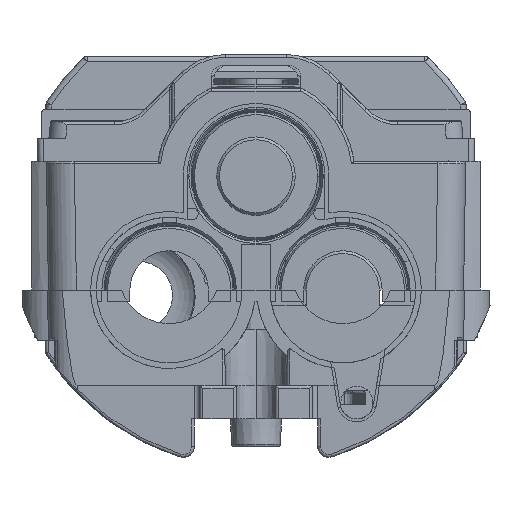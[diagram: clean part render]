
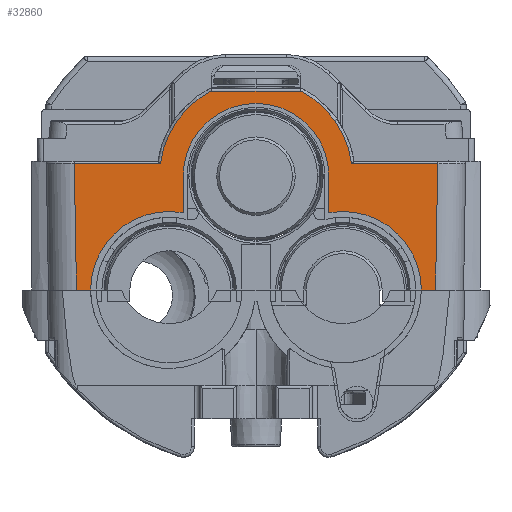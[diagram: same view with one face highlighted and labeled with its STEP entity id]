
A CAD part, left-side view. The second image highlights one B-rep face of the part: STEP entity #32860.
In plain terms, the highlighted planar face has unit normal (-1, 0, 0).
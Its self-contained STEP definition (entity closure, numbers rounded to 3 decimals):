
#118 = CARTESIAN_POINT ( 'NONE',  ( -325.383, 32.028, 34. ) ) ;
#2067 = EDGE_CURVE ( 'NONE', #2610, #49911, #42986, .T. ) ;
#2324 = VERTEX_POINT ( 'NONE', #6703 ) ;
#2610 = VERTEX_POINT ( 'NONE', #35472 ) ;
#2659 = CARTESIAN_POINT ( 'NONE',  ( -325.383, 32.762, 76.074 ) ) ;
#3136 = CARTESIAN_POINT ( 'NONE',  ( -325.383, 13., 47.775 ) ) ;
#3774 = EDGE_CURVE ( 'NONE', #31013, #2610, #27265, .T. ) ;
#4489 = LINE ( 'NONE', #52822, #27138 ) ;
#4792 = LINE ( 'NONE', #2659, #51269 ) ;
#6269 = CARTESIAN_POINT ( 'NONE',  ( -325.383, 37.029, 34. ) ) ;
#6314 = DIRECTION ( 'NONE',  ( -1., 0., 0. ) ) ;
#6455 = CARTESIAN_POINT ( 'NONE',  ( -325.383, 0., 54.3 ) ) ;
#6659 = ORIENTED_EDGE ( 'NONE', *, *, #49433, .T. ) ;
#6703 = CARTESIAN_POINT ( 'NONE',  ( -325.383, 13., 54.3 ) ) ;
#6851 = DIRECTION ( 'NONE',  ( 0., 0., 1. ) ) ;
#7115 = ORIENTED_EDGE ( 'NONE', *, *, #16212, .F. ) ;
#7698 = DIRECTION ( 'NONE',  ( 0., -1., 0. ) ) ;
#8183 = DIRECTION ( 'NONE',  ( 0., 0., -1. ) ) ;
#8888 = VERTEX_POINT ( 'NONE', #118 ) ;
#9203 = DIRECTION ( 'NONE',  ( -1., 0., 0. ) ) ;
#9289 = CARTESIAN_POINT ( 'NONE',  ( -325.383, 37.029, 56.5 ) ) ;
#9937 = LINE ( 'NONE', #9289, #22068 ) ;
#9982 = DIRECTION ( 'NONE',  ( 0., 0., -1. ) ) ;
#10129 = VERTEX_POINT ( 'NONE', #36605 ) ;
#10559 = DIRECTION ( 'NONE',  ( -1., 0., 0. ) ) ;
#10719 = EDGE_CURVE ( 'NONE', #50583, #8888, #4792, .T. ) ;
#10935 = DIRECTION ( 'NONE',  ( 0., -1., 0. ) ) ;
#12222 = EDGE_CURVE ( 'NONE', #2324, #28809, #39969, .T. ) ;
#12239 = VERTEX_POINT ( 'NONE', #41917 ) ;
#14271 = CARTESIAN_POINT ( 'NONE',  ( -325.383, -32.421, 56.5 ) ) ;
#14527 = VECTOR ( 'NONE', #41971, 1000. ) ;
#14599 = EDGE_CURVE ( 'NONE', #10129, #28165, #51025, .T. ) ;
#14882 = CARTESIAN_POINT ( 'NONE',  ( -325.383, 17.059, 56.5 ) ) ;
#16159 = AXIS2_PLACEMENT_3D ( 'NONE', #37655, #10559, #42100 ) ;
#16212 = EDGE_CURVE ( 'NONE', #28809, #20302, #26369, .T. ) ;
#16432 = DIRECTION ( 'NONE',  ( 0., -0.017, 1. ) ) ;
#17389 = EDGE_LOOP ( 'NONE', ( #34760, #45585, #31134, #6659, #7115, #27620, #50789, #31689, #34525, #55994, #37699, #37464, #18642, #53442 ) ) ;
#18447 = AXIS2_PLACEMENT_3D ( 'NONE', #6455, #38015, #10935 ) ;
#18642 = ORIENTED_EDGE ( 'NONE', *, *, #3774, .T. ) ;
#19779 = CIRCLE ( 'NONE', #55710, 14. ) ;
#19823 = VECTOR ( 'NONE', #16432, 1000. ) ;
#20302 = VERTEX_POINT ( 'NONE', #52577 ) ;
#20615 = AXIS2_PLACEMENT_3D ( 'NONE', #50453, #23589, #55075 ) ;
#22068 = VECTOR ( 'NONE', #54484, 1000. ) ;
#22109 = EDGE_CURVE ( 'NONE', #55123, #12239, #35535, .T. ) ;
#22979 = EDGE_CURVE ( 'NONE', #28165, #24633, #47950, .T. ) ;
#23589 = DIRECTION ( 'NONE',  ( -1., 0., 0. ) ) ;
#23978 = CARTESIAN_POINT ( 'NONE',  ( -325.383, 37.029, 56.5 ) ) ;
#24633 = VERTEX_POINT ( 'NONE', #14271 ) ;
#25111 = CARTESIAN_POINT ( 'NONE',  ( -325.383, -32.74, 74.782 ) ) ;
#26369 = CIRCLE ( 'NONE', #16159, 14. ) ;
#26965 = FACE_OUTER_BOUND ( 'NONE', #17389, .T. ) ;
#27138 = VECTOR ( 'NONE', #7698, 1000. ) ;
#27265 = CIRCLE ( 'NONE', #29676, 17.2 ) ;
#27278 = CARTESIAN_POINT ( 'NONE',  ( -325.383, -13., 47.775 ) ) ;
#27620 = ORIENTED_EDGE ( 'NONE', *, *, #12222, .F. ) ;
#28127 = VECTOR ( 'NONE', #9982, 1000. ) ;
#28142 = LINE ( 'NONE', #23978, #14527 ) ;
#28165 = VERTEX_POINT ( 'NONE', #47343 ) ;
#28809 = VERTEX_POINT ( 'NONE', #3136 ) ;
#29493 = CARTESIAN_POINT ( 'NONE',  ( -325.383, -13., 54.3 ) ) ;
#29676 = AXIS2_PLACEMENT_3D ( 'NONE', #36293, #9203, #40738 ) ;
#30821 = CARTESIAN_POINT ( 'NONE',  ( -325.383, 37.029, 76. ) ) ;
#31013 = VERTEX_POINT ( 'NONE', #53427 ) ;
#31134 = ORIENTED_EDGE ( 'NONE', *, *, #10719, .T. ) ;
#31228 = CARTESIAN_POINT ( 'NONE',  ( -325.383, 8.05, 69.5 ) ) ;
#31331 = VERTEX_POINT ( 'NONE', #14882 ) ;
#31689 = ORIENTED_EDGE ( 'NONE', *, *, #22109, .F. ) ;
#32860 = ADVANCED_FACE ( 'NONE', ( #26965 ), #57792, .F. ) ;
#33430 = CARTESIAN_POINT ( 'NONE',  ( -325.383, -15.5, 34. ) ) ;
#34214 = DIRECTION ( 'NONE',  ( 0., -0.017, -1. ) ) ;
#34525 = ORIENTED_EDGE ( 'NONE', *, *, #53544, .F. ) ;
#34760 = ORIENTED_EDGE ( 'NONE', *, *, #46132, .T. ) ;
#35274 = DIRECTION ( 'NONE',  ( 1., 0., 0. ) ) ;
#35472 = CARTESIAN_POINT ( 'NONE',  ( -325.383, -8.05, 69.5 ) ) ;
#35535 = LINE ( 'NONE', #29493, #56671 ) ;
#36293 = CARTESIAN_POINT ( 'NONE',  ( -325.383, 0., 54.3 ) ) ;
#36605 = CARTESIAN_POINT ( 'NONE',  ( -325.383, -29.5, 34. ) ) ;
#37464 = ORIENTED_EDGE ( 'NONE', *, *, #50364, .T. ) ;
#37655 = CARTESIAN_POINT ( 'NONE',  ( -325.383, 15.5, 34. ) ) ;
#37699 = ORIENTED_EDGE ( 'NONE', *, *, #22979, .T. ) ;
#37874 = DIRECTION ( 'NONE',  ( 0., -1., 0. ) ) ;
#38015 = DIRECTION ( 'NONE',  ( -1., 0., 0. ) ) ;
#39969 = LINE ( 'NONE', #50400, #28127 ) ;
#40738 = DIRECTION ( 'NONE',  ( 0., 0., -1. ) ) ;
#40788 = CIRCLE ( 'NONE', #20615, 17.2 ) ;
#41917 = CARTESIAN_POINT ( 'NONE',  ( -325.383, -13., 54.3 ) ) ;
#41971 = DIRECTION ( 'NONE',  ( 0., 1., 0. ) ) ;
#42100 = DIRECTION ( 'NONE',  ( 0., -1., 0. ) ) ;
#42986 = LINE ( 'NONE', #53671, #56514 ) ;
#43450 = EDGE_CURVE ( 'NONE', #31331, #50583, #28142, .T. ) ;
#45328 = VECTOR ( 'NONE', #46730, 1000. ) ;
#45585 = ORIENTED_EDGE ( 'NONE', *, *, #43450, .T. ) ;
#46132 = EDGE_CURVE ( 'NONE', #49911, #31331, #40788, .T. ) ;
#46730 = DIRECTION ( 'NONE',  ( 0., -1., 0. ) ) ;
#47343 = CARTESIAN_POINT ( 'NONE',  ( -325.383, -32.028, 34. ) ) ;
#47950 = LINE ( 'NONE', #25111, #19823 ) ;
#48595 = CIRCLE ( 'NONE', #18447, 13. ) ;
#49433 = EDGE_CURVE ( 'NONE', #8888, #20302, #4489, .T. ) ;
#49911 = VERTEX_POINT ( 'NONE', #31228 ) ;
#50364 = EDGE_CURVE ( 'NONE', #24633, #31013, #9937, .T. ) ;
#50400 = CARTESIAN_POINT ( 'NONE',  ( -325.383, 13., 54.3 ) ) ;
#50453 = CARTESIAN_POINT ( 'NONE',  ( -325.383, 0., 54.3 ) ) ;
#50583 = VERTEX_POINT ( 'NONE', #57479 ) ;
#50789 = ORIENTED_EDGE ( 'NONE', *, *, #51239, .F. ) ;
#51025 = LINE ( 'NONE', #6269, #45328 ) ;
#51122 = AXIS2_PLACEMENT_3D ( 'NONE', #30821, #35274, #8183 ) ;
#51239 = EDGE_CURVE ( 'NONE', #12239, #2324, #48595, .T. ) ;
#51269 = VECTOR ( 'NONE', #34214, 1000. ) ;
#52577 = CARTESIAN_POINT ( 'NONE',  ( -325.383, 29.5, 34. ) ) ;
#52822 = CARTESIAN_POINT ( 'NONE',  ( -325.383, 37.029, 34. ) ) ;
#53427 = CARTESIAN_POINT ( 'NONE',  ( -325.383, -17.059, 56.5 ) ) ;
#53442 = ORIENTED_EDGE ( 'NONE', *, *, #2067, .T. ) ;
#53544 = EDGE_CURVE ( 'NONE', #10129, #55123, #19779, .T. ) ;
#53671 = CARTESIAN_POINT ( 'NONE',  ( -325.383, 37.029, 69.5 ) ) ;
#54484 = DIRECTION ( 'NONE',  ( 0., 1., 0. ) ) ;
#55075 = DIRECTION ( 'NONE',  ( 0., 0., -1. ) ) ;
#55123 = VERTEX_POINT ( 'NONE', #27278 ) ;
#55710 = AXIS2_PLACEMENT_3D ( 'NONE', #33430, #6314, #37874 ) ;
#55994 = ORIENTED_EDGE ( 'NONE', *, *, #14599, .T. ) ;
#56512 = DIRECTION ( 'NONE',  ( 0., 1., 0. ) ) ;
#56514 = VECTOR ( 'NONE', #56512, 1000. ) ;
#56671 = VECTOR ( 'NONE', #6851, 1000. ) ;
#57479 = CARTESIAN_POINT ( 'NONE',  ( -325.383, 32.421, 56.5 ) ) ;
#57792 = PLANE ( 'NONE',  #51122 ) ;
